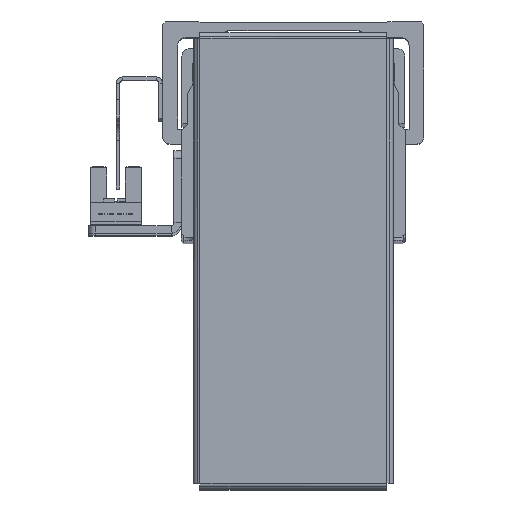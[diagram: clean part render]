
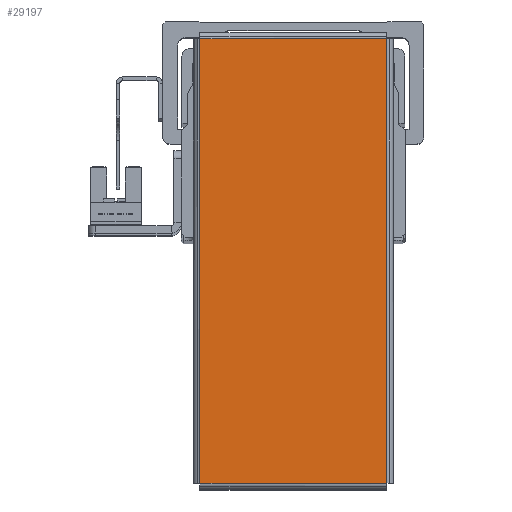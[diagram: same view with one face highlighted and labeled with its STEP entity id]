
A CAD part, top view. The second image highlights one B-rep face of the part: STEP entity #29197.
In plain terms, the highlighted planar face has unit normal (0, 0, 1) as drawn and (0, 0, -1) by its records, which use the part's own axes.
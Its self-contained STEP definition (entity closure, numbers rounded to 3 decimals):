
#2696 = ORIENTED_EDGE ( 'NONE', *, *, #25181, .T. ) ;
#2719 = ORIENTED_EDGE ( 'NONE', *, *, #25178, .T. ) ;
#2723 = ORIENTED_EDGE ( 'NONE', *, *, #25191, .T. ) ;
#2738 = ORIENTED_EDGE ( 'NONE', *, *, #25184, .T. ) ;
#3615 = VERTEX_POINT ( 'NONE', #17789 ) ;
#3668 = VERTEX_POINT ( 'NONE', #17812 ) ;
#3671 = VERTEX_POINT ( 'NONE', #17839 ) ;
#3684 = VERTEX_POINT ( 'NONE', #17895 ) ;
#6799 = AXIS2_PLACEMENT_3D ( 'NONE', #9642, #9641, #9672 ) ;
#8992 = FACE_OUTER_BOUND ( 'NONE', #23337, .T. ) ;
#9641 = DIRECTION ( 'NONE',  ( 0., 0., 1. ) ) ;
#9642 = CARTESIAN_POINT ( 'NONE',  ( 0., 0., -1. ) ) ;
#9645 = PLANE ( 'NONE',  #6799 ) ;
#9672 = DIRECTION ( 'NONE',  ( 1., 0., 0. ) ) ;
#17789 = CARTESIAN_POINT ( 'NONE',  ( -59.513, 25.013, -1. ) ) ;
#17812 = CARTESIAN_POINT ( 'NONE',  ( 59.513, -25.013, -1. ) ) ;
#17839 = CARTESIAN_POINT ( 'NONE',  ( 59.513, 25.013, -1. ) ) ;
#17895 = CARTESIAN_POINT ( 'NONE',  ( -59.513, -25.013, -1. ) ) ;
#23337 = EDGE_LOOP ( 'NONE', ( #2723, #2719, #2738, #2696 ) ) ;
#25178 = EDGE_CURVE ( 'NONE', #3668, #3684, #29340, .T. ) ;
#25181 = EDGE_CURVE ( 'NONE', #3615, #3671, #29289, .T. ) ;
#25184 = EDGE_CURVE ( 'NONE', #3684, #3615, #29347, .T. ) ;
#25191 = EDGE_CURVE ( 'NONE', #3671, #3668, #29313, .T. ) ;
#29197 = ADVANCED_FACE ( 'NONE', ( #8992 ), #9645, .F. ) ;
#29289 = LINE ( 'NONE', #30719, #29336 ) ;
#29306 = VECTOR ( 'NONE', #30754, 1000. ) ;
#29313 = LINE ( 'NONE', #30792, #29331 ) ;
#29331 = VECTOR ( 'NONE', #30791, 1000. ) ;
#29336 = VECTOR ( 'NONE', #30715, 1000. ) ;
#29340 = LINE ( 'NONE', #30756, #29306 ) ;
#29345 = VECTOR ( 'NONE', #30725, 1000. ) ;
#29347 = LINE ( 'NONE', #30733, #29345 ) ;
#30715 = DIRECTION ( 'NONE',  ( 1., 0., 0. ) ) ;
#30719 = CARTESIAN_POINT ( 'NONE',  ( -59.543, 25.013, -1. ) ) ;
#30725 = DIRECTION ( 'NONE',  ( 0., 1., 0. ) ) ;
#30733 = CARTESIAN_POINT ( 'NONE',  ( -59.513, -25.043, -1. ) ) ;
#30754 = DIRECTION ( 'NONE',  ( -1., 0., 0. ) ) ;
#30756 = CARTESIAN_POINT ( 'NONE',  ( 59.543, -25.013, -1. ) ) ;
#30791 = DIRECTION ( 'NONE',  ( 0., -1., 0. ) ) ;
#30792 = CARTESIAN_POINT ( 'NONE',  ( 59.513, 25.043, -1. ) ) ;
